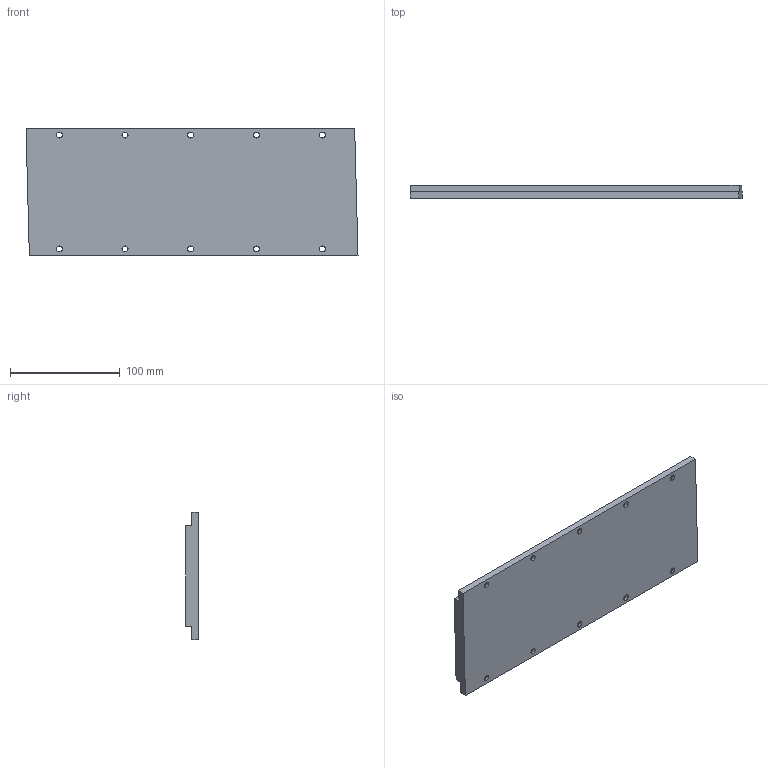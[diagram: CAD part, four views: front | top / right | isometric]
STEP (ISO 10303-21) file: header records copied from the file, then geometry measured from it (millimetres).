
FILE_DESCRIPTION (( 'STEP AP214' ), '1' );
FILE_NAME ('LMSA3S3E.STEP', '2013-07-30T02:21:09', ( 'user' ), ( '' ), 'SwSTEP 2.0', 'SolidWorks 2010', '' );
FILE_SCHEMA (( 'AUTOMOTIVE_DESIGN' ));
Length unit declared in the file: millimetre
Products named in the file (1): LMSA3S3E
Bounding box: 303.04 x 11.7 x 116 mm (x, y, z)
Volume: 363472.2 mm3; surface area: 80145 mm2
Topology: 1 solids, 1 shells, 87 faces, 219 edges, 146 vertices
Faces by surface type: cylinder 40, plane 36, bspline 11
Entity records: 3497 total; most frequent: CARTESIAN_POINT 1320, ORIENTED_EDGE 438, DIRECTION 431, EDGE_CURVE 219, AXIS2_PLACEMENT_3D 157, VERTEX_POINT 146, EDGE_LOOP 119, LINE 117
